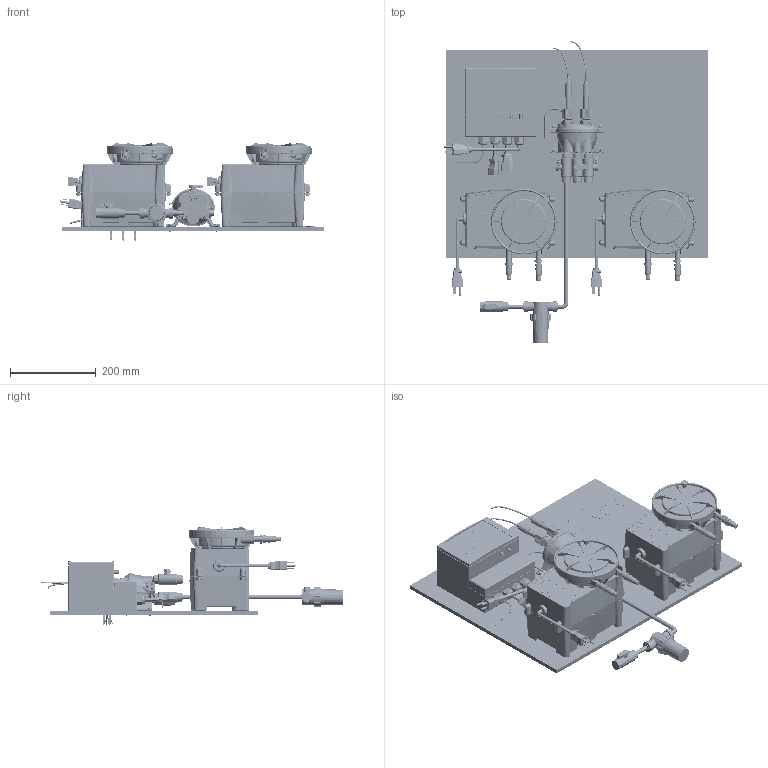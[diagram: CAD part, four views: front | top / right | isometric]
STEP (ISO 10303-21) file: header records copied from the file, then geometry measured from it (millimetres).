
FILE_DESCRIPTION (( 'STEP AP214' ), '1' );
FILE_NAME ('Board Style A 1-14-2020.STEP', '2020-01-15T15:48:13', ( '' ), ( '' ), 'SwSTEP 2.0', 'SolidWorks 2019', '' );
FILE_SCHEMA (( 'AUTOMOTIVE_DESIGN' ));
Length unit declared in the file: inch
Products named in the file (1): Board Style A 1-14-2020
Bounding box: 615.15 x 702.09 x 227.68 mm (x, y, z)
Volume: 8158470.1 mm3; surface area: 1847851 mm2
Topology: 29 solids, 29 shells, 11382 faces, 29890 edges, 18875 vertices
Faces by surface type: plane 4515, bspline 2732, cylinder 2515, torus 803, cone 671, sphere 146
Entity records: 619328 total; most frequent: CARTESIAN_POINT 287487, ORIENTED_EDGE 59436, DIRECTION 45704, EDGE_CURVE 29718, VERTEX_POINT 18873, AXIS2_PLACEMENT_3D 16083, LINE 13538, VECTOR 13538
